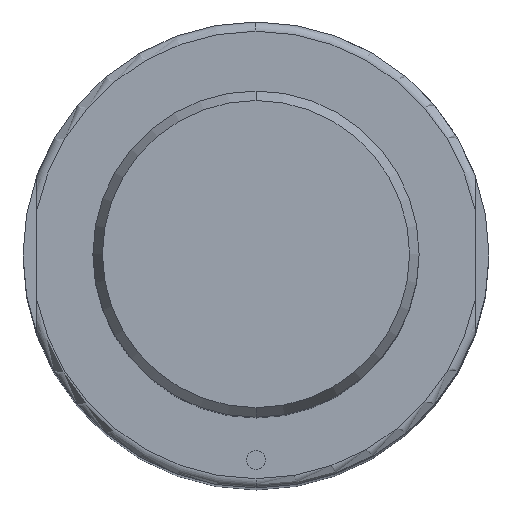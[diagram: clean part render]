
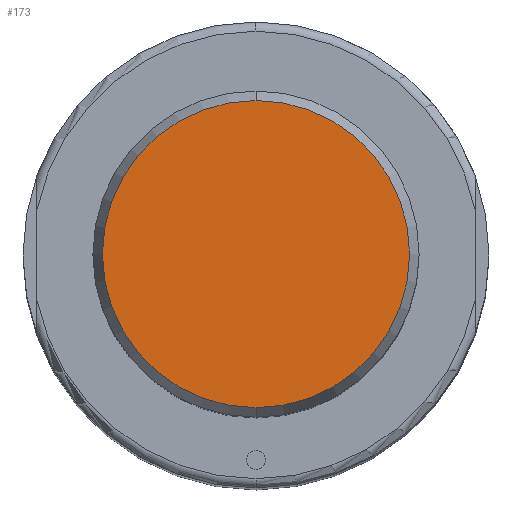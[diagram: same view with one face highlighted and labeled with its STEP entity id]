
A CAD part, top view. The second image highlights one B-rep face of the part: STEP entity #173.
In plain terms, the highlighted planar face has unit normal (0, 0, 1).
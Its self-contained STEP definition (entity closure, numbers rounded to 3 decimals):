
#124=PLANE('',#990);
#173=ADVANCED_FACE('',(#244),#124,.T.);
#244=FACE_OUTER_BOUND('',#297,.T.);
#297=EDGE_LOOP('',(#457,#458));
#364=CIRCLE('',#975,16.481);
#365=CIRCLE('',#977,16.481);
#457=ORIENTED_EDGE('',*,*,#758,.F.);
#458=ORIENTED_EDGE('',*,*,#759,.F.);
#677=VERTEX_POINT('',#1413);
#680=VERTEX_POINT('',#1418);
#758=EDGE_CURVE('',#680,#677,#364,.T.);
#759=EDGE_CURVE('',#677,#680,#365,.T.);
#975=AXIS2_PLACEMENT_3D('',#1419,#1109,#1110);
#977=AXIS2_PLACEMENT_3D('',#1421,#1113,#1114);
#990=AXIS2_PLACEMENT_3D('',#1444,#1143,#1144);
#1109=DIRECTION('',(0.,0.,-1.));
#1110=DIRECTION('',(-1.,0.,0.));
#1113=DIRECTION('',(0.,0.,-1.));
#1114=DIRECTION('',(1.,0.,0.));
#1143=DIRECTION('',(0.,0.,1.));
#1144=DIRECTION('',(0.,-1.,0.));
#1413=CARTESIAN_POINT('',(0.,-16.481,180.));
#1418=CARTESIAN_POINT('',(0.,16.481,180.));
#1419=CARTESIAN_POINT('',(0.,0.,180.));
#1421=CARTESIAN_POINT('',(0.,0.,180.));
#1444=CARTESIAN_POINT('',(0.,0.,180.));
